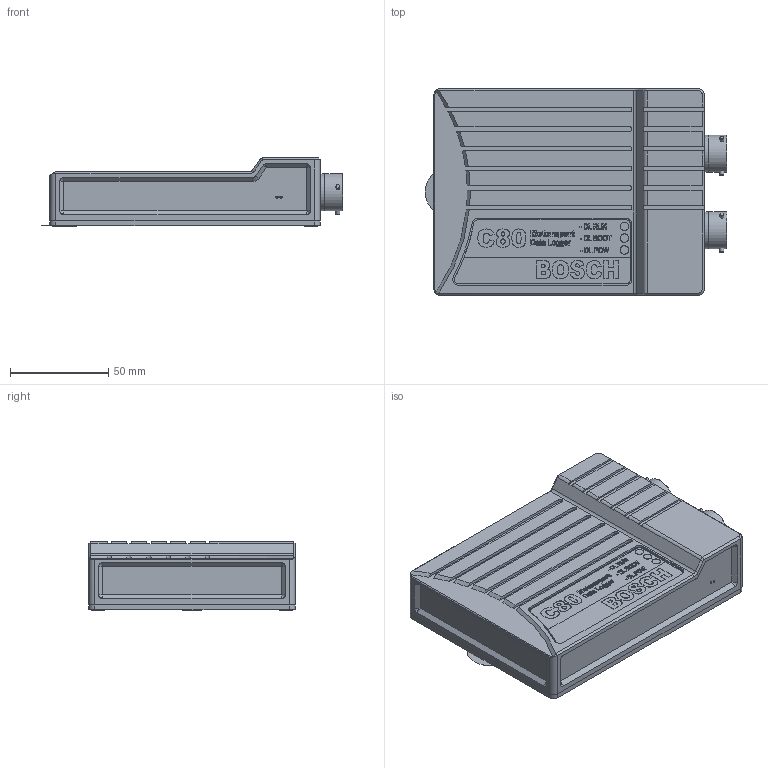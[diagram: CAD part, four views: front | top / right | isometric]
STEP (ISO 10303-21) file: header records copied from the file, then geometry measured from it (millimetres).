
FILE_DESCRIPTION(/* description */ (''),/* implementation_level */ '2;1');
FILE_NAME(/* name */ 'F02UA03034-01.stp',/* time_stamp */ '2020-11-10T13:42:19+01:00',/* author */ (''),/* organization */ (''),/* preprocessor_version */ 'ST-DEVELOPER v16.7',/* originating_system */ 'SIEMENS PLM Software NX 1926',/* authorisation */ '');
FILE_SCHEMA (('AUTOMOTIVE_DESIGN { 1 0 10303 214 3 1 1 1 }'));
Products named in the file (15): f02ue01342_01.001-CONNECTOR; f02ue01341_01.001-CONNECTOR; f02u002495_01.001-HOUSING BASE; f02u000951_01.001-COUNTERSUNK-HEAD SCREW; f02u002494_01.001-HOUSING COVER; f02u000950_01.001-COUNTERSUNK-HEAD SCREW; f02u000945_01.001-COUNTERSUNK-HEAD SCREW; f02u002281_01.001-OPTICAL FIBER; F02U004158-01.001-TYPE LABEL MSD; F02U005491-01.001-STICKER; f02u004274_01.001-CONTROL SEAL; f02ux00011_01.001-CIRCUIT BOARD_SOLID_AGZ; F02UB01161-01.001-SUBASSEMBLY_SOLID_AGZ; F02UV03034-01.001-DATA LOGGER_SOLID_AGZ; F02UA03034-01.001-DATA LOGGER
Assembly tree (23 placements, depth 5):
  F02UA03034-01.001-DATA LOGGER
    F02UV03034-01.001-DATA LOGGER_SOLID_AGZ
      F02UB01161-01.001-SUBASSEMBLY_SOLID_AGZ
        F02U004158-01.001-TYPE LABEL MSD
        f02u002281_01.001-OPTICAL FIBER  x3
        f02ux00011_01.001-CIRCUIT BOARD_SOLID_AGZ
          f02ue01341_01.001-CONNECTOR
          f02ue01342_01.001-CONNECTOR
        f02u000945_01.001-COUNTERSUNK-HEAD SCREW
        f02u000950_01.001-COUNTERSUNK-HEAD SCREW  x7
        f02u002494_01.001-HOUSING COVER
        f02u000951_01.001-COUNTERSUNK-HEAD SCREW  x2
        f02u002495_01.001-HOUSING BASE
      f02u004274_01.001-CONTROL SEAL
      F02U005491-01.001-STICKER
Bounding box: 153.55 x 105 x 34.71 mm (x, y, z)
Volume: 107479.2 mm3; surface area: 108851.1 mm2
Topology: 129 solids, 129 shells, 2694 faces, 6695 edges, 4422 vertices
Faces by surface type: plane 1400, extrusion 621, cylinder 446, cone 142, bspline 44, torus 41
Full cylindrical faces by diameter (mm): 0.5 x44, 0.74 x88, 0.788 x9, 1.2 x2, 2 x6, 2.013 x1, 2.21 x1, 2.459 x9, 2.5 x1, 2.9 x1, 3 x9, 3.2 x9, 3.3 x4, 4.2 x3, 4.25 x3, 4.3 x3, 4.7 x1, 5 x6, 6.5 x9, 15.022 x1, 17.44 x2, 18.65 x4, 18.85 x2, 19.05 x4, 21.9 x2, 25 x1
Entity records: 94271 total; most frequent: CARTESIAN_POINT 25983, ORIENTED_EDGE 11594, DIRECTION 8706, EDGE_CURVE 5797, VERTEX_POINT 4029, VECTOR 3342, EDGE_LOOP 3173, B_SPLINE_CURVE_WITH_KNOTS 2890
